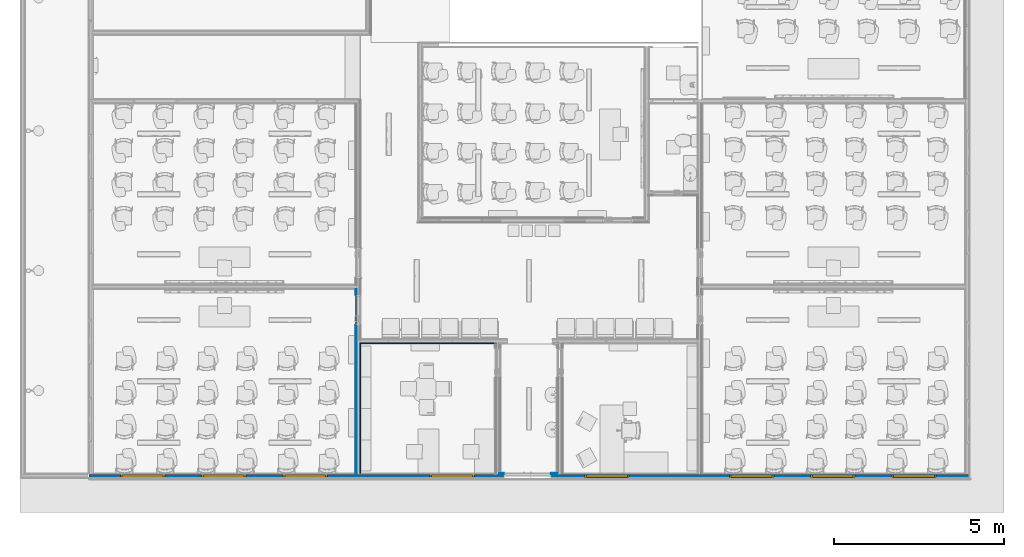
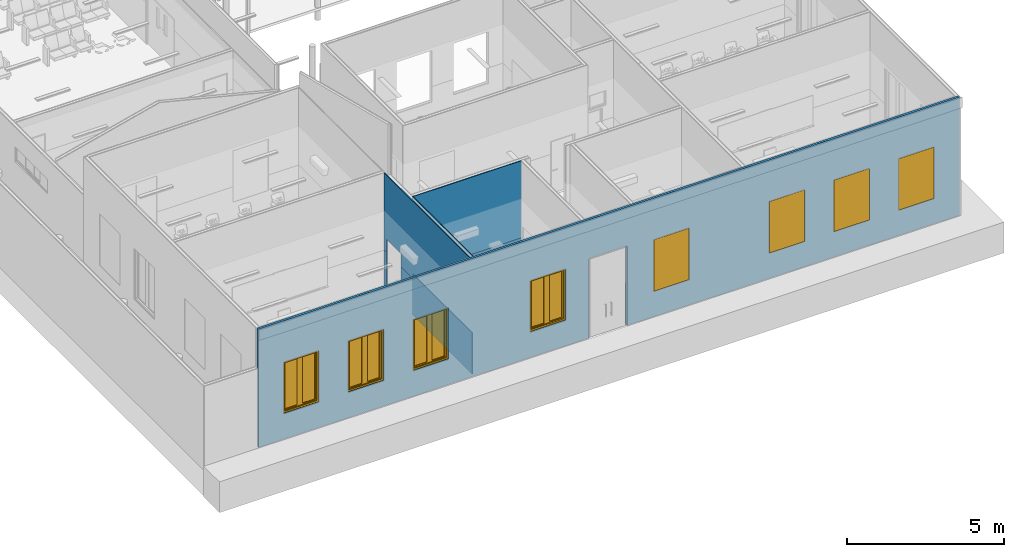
# One storey, part 6 of 155: 8 walls, 8 windows, 26 openings.
"""IFC2X3 building model written with IfcOpenShell, lengths in metres."""

from ifc_helpers import new_model, entity, si_unit, converted_unit, derived_unit, direction, frame, frame_2d, origin, origin_2d_with_axis, place, context, subcontext, project, spatial, polyline, rectangle, outline, extrude, source, transform, mapped, material, layer, layer_set, layer_usage, type_object, type_shapes, element, fill, save


model = new_model("IFC2X3")

# Units and contexts
model_context = context("Model", 3, precision=1e-05, world=origin(), true_north=direction((6.12303176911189e-17, 1.0)))
body_context = subcontext(model_context, "Body", "Model", "MODEL_VIEW")
ifc_project = project(units=[si_unit("LENGTHUNIT", "METRE"), si_unit("AREAUNIT", "SQUARE_METRE"), si_unit("VOLUMEUNIT", "CUBIC_METRE"), converted_unit("PLANEANGLEUNIT", "DEGREE", entity("IfcRatioMeasure", 0.0174532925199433), si_unit("PLANEANGLEUNIT", "RADIAN"), dimensions=[0, 0, 0, 0, 0, 0, 0]), si_unit("MASSUNIT", "GRAM", prefix="KILO"), derived_unit("MASSDENSITYUNIT", [(si_unit("MASSUNIT", "GRAM", prefix="KILO"), 1), (si_unit("LENGTHUNIT", "METRE"), -3)]), si_unit("TIMEUNIT", "SECOND"), si_unit("FREQUENCYUNIT", "HERTZ"), si_unit("THERMODYNAMICTEMPERATUREUNIT", "DEGREE_CELSIUS"), derived_unit("THERMALTRANSMITTANCEUNIT", [(si_unit("MASSUNIT", "GRAM", prefix="KILO"), 1), (si_unit("THERMODYNAMICTEMPERATUREUNIT", "KELVIN"), -1), (si_unit("TIMEUNIT", "SECOND"), -3)]), derived_unit("VOLUMETRICFLOWRATEUNIT", [(si_unit("LENGTHUNIT", "METRE"), 3), (si_unit("TIMEUNIT", "SECOND"), -1)]), si_unit("ELECTRICCURRENTUNIT", "AMPERE"), si_unit("ELECTRICVOLTAGEUNIT", "VOLT"), si_unit("POWERUNIT", "WATT"), si_unit("FORCEUNIT", "NEWTON", prefix="KILO"), si_unit("ILLUMINANCEUNIT", "LUX"), si_unit("LUMINOUSFLUXUNIT", "LUMEN"), si_unit("LUMINOUSINTENSITYUNIT", "CANDELA"), derived_unit("USERDEFINED", [(si_unit("MASSUNIT", "GRAM", prefix="KILO"), -1), (si_unit("LENGTHUNIT", "METRE"), -2), (si_unit("TIMEUNIT", "SECOND"), 3), (si_unit("LUMINOUSFLUXUNIT", "LUMEN"), 1)]), derived_unit("LINEARVELOCITYUNIT", [(si_unit("LENGTHUNIT", "METRE"), 1), (si_unit("TIMEUNIT", "SECOND"), -1)]), si_unit("PRESSUREUNIT", "PASCAL"), derived_unit("USERDEFINED", [(si_unit("LENGTHUNIT", "METRE"), -2), (si_unit("MASSUNIT", "GRAM", prefix="KILO"), 1), (si_unit("TIMEUNIT", "SECOND"), -2)])], contexts=[model_context])

# Site, building, storey
site_placement = place(None, frame((26.9889013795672, -17.5624287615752, 0.0)))
site = spatial("IfcSite", under=ifc_project, at=site_placement, Name="Default", CompositionType="ELEMENT")
building_placement = place(site_placement, origin())
building = spatial("IfcBuilding", under=site, at=building_placement, Name="C. C. L. Monsenhor Antônio Sampaio", CompositionType="ELEMENT")
storey_placement = place(building_placement, frame((0.0, 0.0, 1.19999999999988)))
storey = spatial("IfcBuildingStorey", under=building, at=storey_placement, Name="Nível 1.2", CompositionType="ELEMENT", Elevation=1.19999999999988)

# Wall, openings, windows
ifc_material_1 = material(Name="ALVENARIA")
ifc_layer_1 = layer(ifc_material_1, 0.09)
ifc_layer_set_1 = layer_set([ifc_layer_1], Name="Parede básica:ENucleo parede 15cm")
ifc_layer_usage_1 = layer_usage(ifc_layer_set_1, "AXIS2", "POSITIVE", -0.045)
wall_type_1 = type_object("IfcWallType", Name="Parede básica:ENucleo parede 15cm", PredefinedType="STANDARD", material=ifc_layer_set_1)
wall_1_placement = place(storey_placement, frame((11.6994477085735, -39.3780663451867, 0.0), z_axis=(0.0, 0.0, 1.0), x_axis=(-1.0, 0.0, 0.0)))
wall_1 = element("IfcWallStandardCase", 1, at=wall_1_placement, inside=storey, type_object=wall_type_1, material=ifc_layer_usage_1, Name="Parede básica:ENucleo parede 15cm", ObjectType="Parede básica:ENucleo parede 15cm", context=body_context, shape_type="SweptSolid", body=[
    extrude(rectangle(XDim=25.8099999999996, YDim=0.0899999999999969, at=frame_2d((12.9049999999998, 5.20417042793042e-17), x_axis=(-1.0, 0.0))), origin(), (0.0, 0.0, 1.0), 4.60000000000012),
])
opening_1_placement = place(wall_1_placement, frame((12.2500000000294, -0.0450000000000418, 0.0)))
element("IfcOpeningElement", 2, at=opening_1_placement, cuts=wall_1, Name="Porta pivotante dupla sem revestimento:PORTA DE ENTRADA 3m:1", ObjectType="Opening", context=body_context, shape_type="SweptSolid", body=[
    extrude(rectangle(XDim=3.09999999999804, YDim=1.4, at=frame_2d((1.54999999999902, 0.699999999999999), x_axis=(1.0, 0.0))), frame((0.0, 0.0, 0.0), z_axis=(0.0, 1.0, 0.0), x_axis=(0.0, 0.0, 1.0)), (0.0, 0.0, 1.0), 0.09),
])
opening_2_placement = place(wall_1_placement, frame((0.960000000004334, -0.0450000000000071, 1.0)))
opening_2 = element("IfcOpeningElement", 3, at=opening_2_placement, cuts=wall_1, Name="Janela levantamento:130 x 200cm 2:1", ObjectType="Opening", context=body_context, shape_type="SweptSolid", body=[
    extrude(rectangle(XDim=2.0, YDim=1.30000000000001, at=frame_2d((0.999999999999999, 0.650000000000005), x_axis=(1.0, 0.0))), frame((0.0, 0.0, 0.0), z_axis=(0.0, 1.0, 0.0), x_axis=(0.0, 0.0, 1.0)), (0.0, 0.0, 1.0), 0.09),
])
opening_3_placement = place(wall_1_placement, frame((3.34000000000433, -0.0450000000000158, 1.0)))
opening_3 = element("IfcOpeningElement", 4, at=opening_3_placement, cuts=wall_1, Name="Janela levantamento:130 x 200cm 2:1", ObjectType="Opening", context=body_context, shape_type="SweptSolid", body=[
    extrude(rectangle(XDim=2.0, YDim=1.30000000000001, at=frame_2d((0.999999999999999, 0.650000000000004), x_axis=(1.0, 0.0))), frame((0.0, 0.0, 0.0), z_axis=(0.0, 1.0, 0.0), x_axis=(0.0, 0.0, 1.0)), (0.0, 0.0, 1.0), 0.09),
])
opening_4_placement = place(wall_1_placement, frame((5.72000000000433, -0.0450000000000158, 1.0)))
opening_4 = element("IfcOpeningElement", 5, at=opening_4_placement, cuts=wall_1, Name="Janela levantamento:130 x 200cm 2:1", ObjectType="Opening", context=body_context, shape_type="SweptSolid", body=[
    extrude(rectangle(XDim=2.0, YDim=1.30000000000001, at=frame_2d((0.999999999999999, 0.650000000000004), x_axis=(1.0, 0.0))), frame((0.0, 0.0, 0.0), z_axis=(0.0, 1.0, 0.0), x_axis=(0.0, 0.0, 1.0)), (0.0, 0.0, 1.0), 0.09),
])
opening_5_placement = place(wall_1_placement, frame((9.97000000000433, -0.0450000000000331, 1.0)))
opening_5 = element("IfcOpeningElement", 6, at=opening_5_placement, cuts=wall_1, Name="Janela levantamento:130 x 200cm 2:1", ObjectType="Opening", context=body_context, shape_type="SweptSolid", body=[
    extrude(rectangle(XDim=2.0, YDim=1.30000000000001, at=frame_2d((0.999999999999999, 0.650000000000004), x_axis=(1.0, 0.0))), frame((0.0, 0.0, 0.0), z_axis=(0.0, 1.0, 0.0), x_axis=(0.0, 0.0, 1.0)), (0.0, 0.0, 1.0), 0.09),
])
opening_6_placement = place(wall_1_placement, frame((15.8100000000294, 0.0449999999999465, 1.0)))
opening_6 = element("IfcOpeningElement", 7, at=opening_6_placement, cuts=wall_1, Name="Janela levantamento:130 x 200cm 2:1", ObjectType="Opening", context=body_context, shape_type="SweptSolid", body=[
    extrude(rectangle(XDim=2.0, YDim=1.30000000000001, at=frame_2d((0.999999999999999, 0.650000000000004), x_axis=(1.0, 0.0))), frame((0.0, 0.0, 0.0), z_axis=(0.0, -1.0, 0.0), x_axis=(0.0, 0.0, 1.0)), (0.0, 0.0, 1.0), 0.09),
])
opening_7_placement = place(wall_1_placement, frame((20.1199999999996, 0.0449999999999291, 1.0)))
opening_7 = element("IfcOpeningElement", 8, at=opening_7_placement, cuts=wall_1, Name="Janela levantamento:130 x 200cm 2:1", ObjectType="Opening", context=body_context, shape_type="SweptSolid", body=[
    extrude(rectangle(XDim=2.0, YDim=1.30000000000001, at=frame_2d((0.999999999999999, 0.650000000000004), x_axis=(1.0, 0.0))), frame((0.0, 0.0, 0.0), z_axis=(0.0, -1.0, 0.0), x_axis=(0.0, 0.0, 1.0)), (0.0, 0.0, 1.0), 0.09),
])
opening_8_placement = place(wall_1_placement, frame((22.5099999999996, 0.0449999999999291, 1.0)))
opening_8 = element("IfcOpeningElement", 9, at=opening_8_placement, cuts=wall_1, Name="Janela levantamento:130 x 200cm 2:1", ObjectType="Opening", context=body_context, shape_type="SweptSolid", body=[
    extrude(rectangle(XDim=2.0, YDim=1.30000000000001, at=frame_2d((0.999999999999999, 0.650000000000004), x_axis=(1.0, 0.0))), frame((0.0, 0.0, 0.0), z_axis=(0.0, -1.0, 0.0), x_axis=(0.0, 0.0, 1.0)), (0.0, 0.0, 1.0), 0.09),
])
opening_9_placement = place(wall_1_placement, frame((24.8899999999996, 0.0449999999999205, 1.0)))
opening_9 = element("IfcOpeningElement", 10, at=opening_9_placement, cuts=wall_1, Name="Janela levantamento:130 x 200cm 2:1", ObjectType="Opening", context=body_context, shape_type="SweptSolid", body=[
    extrude(rectangle(XDim=2.0, YDim=1.30000000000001, at=frame_2d((0.999999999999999, 0.650000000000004), x_axis=(1.0, 0.0))), frame((0.0, 0.0, 0.0), z_axis=(0.0, -1.0, 0.0), x_axis=(0.0, 0.0, 1.0)), (0.0, 0.0, 1.0), 0.09),
])
ifc_material_2 = material(Name="Pintura Azul")
window_style_1 = type_object("IfcWindowStyle", Name="130 x 200cm 2", ConstructionType="NOTDEFINED", OperationType="NOTDEFINED", ParameterTakesPrecedence=False, Sizeable=False, material=ifc_material_2)
shared_shape_1 = source(origin(), body_context, "Body", "SweptSolid", [
    extrude(rectangle(XDim=1.3, YDim=0.0209999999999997, at=frame_2d((0.0, 4.33680868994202e-18), x_axis=(1.0, 0.0))), frame((0.650000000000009, 0.0795000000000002, 0.0)), (0.0, 0.0, 1.0), 0.0299999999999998),
    extrude(outline(polyline([(-0.325000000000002, -1.0), (0.325000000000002, -1.0), (0.325000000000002, 1.0), (-0.325000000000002, 1.0), (-0.325000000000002, -1.0)]), holes=[polyline([(0.225000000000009, -0.899999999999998), (-0.225000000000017, -0.899999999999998), (-0.225000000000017, 0.900000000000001), (0.225000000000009, 0.900000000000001), (0.225000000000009, -0.899999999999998)])]), frame((0.325000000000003, 0.0690000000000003, 1.0), z_axis=(0.0, 1.0, 0.0), x_axis=(1.0, 0.0, 0.0)), (0.0, 0.0, 1.0), 0.04),
    extrude(outline(polyline([(-0.650000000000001, -1.0), (0.650000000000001, -1.0), (0.650000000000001, 1.0), (-0.650000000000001, 1.0), (-0.650000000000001, -1.0)]), holes=[polyline([(-0.599999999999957, -0.949999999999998), (-0.599999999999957, 0.94), (0.600000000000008, 0.94), (0.600000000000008, -0.949999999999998), (-0.599999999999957, -0.949999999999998)])]), frame((0.650000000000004, 0.019, 1.0), z_axis=(0.0, 1.0, 0.0), x_axis=(1.0, 0.0, 0.0)), (0.0, 0.0, 1.0), 0.05),
    extrude(rectangle(XDim=0.0205880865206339, YDim=0.450000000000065, at=origin_2d_with_axis()), frame((0.324999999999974, 0.0987059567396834, 0.0999999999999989), z_axis=(0.0, 0.0, 1.0), x_axis=(0.0, 1.0, 0.0)), (0.0, 0.0, 1.0), 1.8),
    extrude(rectangle(XDim=0.0205880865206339, YDim=0.449999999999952, at=frame_2d((0.0, 4.16333634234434e-17), x_axis=(1.0, 0.0))), frame((0.977826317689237, 0.0987059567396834, 0.100000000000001), z_axis=(0.0, 0.0, 1.0), x_axis=(0.0, 1.0, 0.0)), (0.0, 0.0, 1.0), 1.8),
    extrude(outline(polyline([(-1.0, -0.325000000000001), (1.0, -0.325000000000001), (1.0, 0.325000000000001), (-1.0, 0.325000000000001), (-1.0, -0.325000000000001)]), holes=[polyline([(-0.899999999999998, 0.224999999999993), (0.900000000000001, 0.224999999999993), (0.900000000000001, -0.225000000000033), (-0.899999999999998, -0.225000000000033), (-0.899999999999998, 0.224999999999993)])]), frame((0.975000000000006, 0.0690000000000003, 1.0), z_axis=(0.0, 1.0, 0.0), x_axis=(0.0, 0.0, -1.0)), (0.0, 0.0, 1.0), 0.04),
])
type_shapes(window_style_1, [shared_shape_1])
window_1_placement = place(opening_9_placement, frame((0.0, 0.0, 0.0), z_axis=(0.0, 0.0, 1.0), x_axis=(-1.0, 0.0, 0.0)))
window_1 = element("IfcWindow", 11, at=window_1_placement, inside=storey, type_object=window_style_1, material=ifc_material_2, Name="Janela levantamento:130 x 200cm 2", ObjectType="130 x 200cm 2", OverallHeight=2.0, OverallWidth=1.30000000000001, context=body_context, shape_type="MappedRepresentation", body=[
    mapped(shared_shape_1, transform((0.0, 0.0, 0.0), scale=1.0)),
])
fill(opening_9, window_1)
window_2_placement = place(opening_8_placement, frame((0.0, 0.0, 0.0), z_axis=(0.0, 0.0, 1.0), x_axis=(-1.0, 0.0, 0.0)))
window_2 = element("IfcWindow", 12, at=window_2_placement, inside=storey, type_object=window_style_1, material=ifc_material_2, Name="Janela levantamento:130 x 200cm 2", ObjectType="130 x 200cm 2", OverallHeight=2.0, OverallWidth=1.30000000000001, context=body_context, shape_type="MappedRepresentation", body=[
    mapped(shared_shape_1, transform((0.0, 0.0, 0.0), scale=1.0)),
])
fill(opening_8, window_2)
window_3_placement = place(opening_7_placement, frame((0.0, 0.0, 0.0), z_axis=(0.0, 0.0, 1.0), x_axis=(-1.0, 0.0, 0.0)))
window_3 = element("IfcWindow", 13, at=window_3_placement, inside=storey, type_object=window_style_1, material=ifc_material_2, Name="Janela levantamento:130 x 200cm 2", ObjectType="130 x 200cm 2", OverallHeight=2.0, OverallWidth=1.30000000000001, context=body_context, shape_type="MappedRepresentation", body=[
    mapped(shared_shape_1, transform((0.0, 0.0, 0.0), scale=1.0)),
])
fill(opening_7, window_3)
window_4_placement = place(opening_5_placement, origin())
window_4 = element("IfcWindow", 14, at=window_4_placement, inside=storey, type_object=window_style_1, material=ifc_material_2, Name="Janela levantamento:130 x 200cm 2", ObjectType="130 x 200cm 2", OverallHeight=2.0, OverallWidth=1.30000000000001, context=body_context, shape_type="MappedRepresentation", body=[
    mapped(shared_shape_1, transform((0.0, 0.0, 0.0), scale=1.0)),
])
fill(opening_5, window_4)
window_5_placement = place(opening_4_placement, origin())
window_5 = element("IfcWindow", 15, at=window_5_placement, inside=storey, type_object=window_style_1, material=ifc_material_2, Name="Janela levantamento:130 x 200cm 2", ObjectType="130 x 200cm 2", OverallHeight=2.0, OverallWidth=1.30000000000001, context=body_context, shape_type="MappedRepresentation", body=[
    mapped(shared_shape_1, transform((0.0, 0.0, 0.0), scale=1.0)),
])
fill(opening_4, window_5)
window_6_placement = place(opening_3_placement, origin())
window_6 = element("IfcWindow", 16, at=window_6_placement, inside=storey, type_object=window_style_1, material=ifc_material_2, Name="Janela levantamento:130 x 200cm 2", ObjectType="130 x 200cm 2", OverallHeight=2.0, OverallWidth=1.30000000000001, context=body_context, shape_type="MappedRepresentation", body=[
    mapped(shared_shape_1, transform((0.0, 0.0, 0.0), scale=1.0)),
])
fill(opening_3, window_6)
window_7_placement = place(opening_2_placement, origin())
window_7 = element("IfcWindow", 17, at=window_7_placement, inside=storey, type_object=window_style_1, material=ifc_material_2, Name="Janela levantamento:130 x 200cm 2", ObjectType="130 x 200cm 2", OverallHeight=2.0, OverallWidth=1.30000000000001, context=body_context, shape_type="MappedRepresentation", body=[
    mapped(shared_shape_1, transform((0.0, 0.0, 0.0), scale=1.0)),
])
fill(opening_2, window_7)
window_style_2 = type_object("IfcWindowStyle", Name="130 x 200cm 2", ConstructionType="NOTDEFINED", OperationType="NOTDEFINED", ParameterTakesPrecedence=False, Sizeable=False, material=ifc_material_2)
shared_shape_2 = source(origin(), body_context, "Body", "SweptSolid", [
    extrude(rectangle(XDim=0.0209999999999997, YDim=1.3, at=origin_2d_with_axis()), frame((0.732281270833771, 0.0795000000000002, 0.0), z_axis=(0.0, 0.0, 1.0), x_axis=(0.0, 1.0, 0.0)), (0.0, 0.0, 1.0), 0.0299999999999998),
    extrude(outline(polyline([(-0.325000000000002, -1.0), (0.325000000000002, -1.0), (0.325000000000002, 1.0), (-0.325000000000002, 1.0), (-0.325000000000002, -1.0)]), holes=[polyline([(0.225000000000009, -0.899999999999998), (-0.225000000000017, -0.899999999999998), (-0.225000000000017, 0.900000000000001), (0.225000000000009, 0.900000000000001), (0.225000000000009, -0.899999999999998)])]), frame((1.05728127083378, 0.109, 1.0), z_axis=(0.0, -1.0, 0.0), x_axis=(-1.0, 0.0, 0.0)), (0.0, 0.0, 1.0), 0.04),
    extrude(outline(polyline([(-0.650000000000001, -1.0), (0.650000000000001, -1.0), (0.650000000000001, 1.0), (-0.650000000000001, 1.0), (-0.650000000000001, -1.0)]), holes=[polyline([(-0.599999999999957, -0.949999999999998), (-0.599999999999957, 0.94), (0.600000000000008, 0.94), (0.600000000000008, -0.949999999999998), (-0.599999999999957, -0.949999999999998)])]), frame((0.732281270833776, 0.069, 1.0), z_axis=(0.0, -1.0, 0.0), x_axis=(-1.0, 0.0, 0.0)), (0.0, 0.0, 1.0), 0.05),
    extrude(rectangle(XDim=0.450000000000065, YDim=0.0205880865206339, at=origin_2d_with_axis()), frame((1.05728127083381, 0.0987059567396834, 0.0999999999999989)), (0.0, 0.0, 1.0), 1.8),
    extrude(rectangle(XDim=0.449999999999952, YDim=0.0205880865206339, at=origin_2d_with_axis()), frame((0.404454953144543, 0.0987059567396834, 0.100000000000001)), (0.0, 0.0, 1.0), 1.8),
    extrude(outline(polyline([(-1.0, -0.325000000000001), (1.0, -0.325000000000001), (1.0, 0.325000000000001), (-1.0, 0.325000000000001), (-1.0, -0.325000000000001)]), holes=[polyline([(-0.899999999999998, 0.224999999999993), (0.900000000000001, 0.224999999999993), (0.900000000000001, -0.225000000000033), (-0.899999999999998, -0.225000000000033), (-0.899999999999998, 0.224999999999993)])]), frame((0.407281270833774, 0.109, 1.0), z_axis=(0.0, -1.0, 0.0), x_axis=(0.0, 0.0, -1.0)), (0.0, 0.0, 1.0), 0.04),
])
type_shapes(window_style_2, [shared_shape_2])
window_8_placement = place(opening_6_placement, frame((0.0822812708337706, 0.0, 0.0), z_axis=(0.0, 0.0, 1.0), x_axis=(-1.0, 0.0, 0.0)))
window_8 = element("IfcWindow", 18, at=window_8_placement, inside=storey, type_object=window_style_2, material=ifc_material_2, Name="Janela levantamento:130 x 200cm 2", ObjectType="130 x 200cm 2", OverallHeight=2.0, OverallWidth=1.30000000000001, context=body_context, shape_type="MappedRepresentation", body=[
    mapped(shared_shape_2, transform((0.0, 0.0, 0.0), scale=1.0)),
])
fill(opening_6, window_8)

# Wall, openings
ifc_material_3 = material(Name=".CERÂMICA 10x10 BRANCA")
ifc_layer_2 = layer(ifc_material_3, 0.0035)
ifc_material_4 = material(Name="Argamassa Colante")
ifc_layer_3 = layer(ifc_material_4, 0.02)
ifc_material_5 = material(Name="4")
ifc_layer_4 = layer(ifc_material_5, 0.0015)
ifc_material_6 = material(Name="3")
ifc_layer_5 = layer(ifc_material_6, 0.005)
ifc_layer_set_2 = layer_set([ifc_layer_2, ifc_layer_3, ifc_layer_4, ifc_layer_5], Name="Parede básica:ECeramica branca 10x10cm")
ifc_layer_usage_2 = layer_usage(ifc_layer_set_2, "AXIS2", "POSITIVE", -0.015)
wall_type_2 = type_object("IfcWallType", Name="Parede básica:ECeramica branca 10x10cm", PredefinedType="STANDARD", material=ifc_layer_set_2)
wall_2_placement = place(storey_placement, frame((-0.370552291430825, -39.3180663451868, 0.0), z_axis=(0.0, 0.0, 1.0), x_axis=(-1.0, 0.0, 0.0)))
wall_2 = element("IfcWallStandardCase", 19, at=wall_2_placement, inside=storey, type_object=wall_type_2, material=ifc_layer_usage_2, Name="Parede básica:ECeramica branca 10x10cm", ObjectType="Parede básica:ECeramica branca 10x10cm", context=body_context, shape_type="SweptSolid", body=[
    extrude(rectangle(XDim=1.70000000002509, YDim=0.0299999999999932, at=frame_2d((0.850000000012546, 0.0), x_axis=(-1.0, 0.0))), origin(), (0.0, 0.0, 1.0), 1.6),
])
opening_10_placement = place(wall_2_placement, origin())
element("IfcOpeningElement", 20, at=opening_10_placement, cuts=wall_2, Name="Parede básica:ECeramica branca 10x10cm", ObjectType="Opening", context=body_context, shape_type="SweptSolid", body=[
    extrude(rectangle(XDim=3.09999999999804, YDim=1.4, at=frame_2d((0.0, -3.33066907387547e-16), x_axis=(0.0, 1.0))), frame((0.880000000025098, -1.50900000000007, 1.54999999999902), z_axis=(0.0, 1.0, 0.0), x_axis=(-1.0, 0.0, 0.0)), (0.0, 0.0, 1.0), 3.048),
])
opening_11_placement = place(wall_2_placement, origin())
element("IfcOpeningElement", 21, at=opening_11_placement, cuts=wall_2, Name="Parede básica:ECeramica branca 10x10cm", ObjectType="Opening", context=body_context, shape_type="SweptSolid", body=[
    extrude(rectangle(XDim=2.0, YDim=1.30000000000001, at=frame_2d((0.0, -3.88578058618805e-16), x_axis=(0.0, 1.0))), frame((12.1699999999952, -1.41900000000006, 2.0), z_axis=(0.0, 1.0, 0.0), x_axis=(-1.0, 0.0, 0.0)), (0.0, 0.0, 1.0), 3.04799999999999),
])
opening_12_placement = place(wall_2_placement, origin())
element("IfcOpeningElement", 22, at=opening_12_placement, cuts=wall_2, Name="Parede básica:ECeramica branca 10x10cm", ObjectType="Opening", context=body_context, shape_type="SweptSolid", body=[
    extrude(rectangle(XDim=2.0, YDim=1.30000000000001, at=frame_2d((-4.9960036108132e-16, -3.88578058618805e-16), x_axis=(0.0, 1.0))), frame((9.78999999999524, -1.41900000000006, 2.0), z_axis=(0.0, 1.0, 0.0), x_axis=(-1.0, 0.0, 0.0)), (0.0, 0.0, 1.0), 3.048),
])
opening_13_placement = place(wall_2_placement, origin())
element("IfcOpeningElement", 23, at=opening_13_placement, cuts=wall_2, Name="Parede básica:ECeramica branca 10x10cm", ObjectType="Opening", context=body_context, shape_type="SweptSolid", body=[
    extrude(rectangle(XDim=2.0, YDim=1.30000000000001, at=frame_2d((0.0, -3.88578058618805e-16), x_axis=(0.0, 1.0))), frame((7.39999999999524, -1.41900000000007, 2.0), z_axis=(0.0, 1.0, 0.0), x_axis=(-1.0, 0.0, 0.0)), (0.0, 0.0, 1.0), 3.048),
])
opening_14_placement = place(wall_2_placement, origin())
element("IfcOpeningElement", 24, at=opening_14_placement, cuts=wall_2, Name="Parede básica:ECeramica branca 10x10cm", ObjectType="Opening", context=body_context, shape_type="SweptSolid", body=[
    extrude(rectangle(XDim=2.0, YDim=1.30000000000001, at=frame_2d((1.66533453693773e-16, 0.0), x_axis=(1.0, 0.0))), frame((3.09000000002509, -1.41900000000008, 2.0), z_axis=(0.0, 1.0, 0.0), x_axis=(0.0, 0.0, 1.0)), (0.0, 0.0, 1.0), 3.048),
])
opening_15_placement = place(wall_2_placement, origin())
element("IfcOpeningElement", 25, at=opening_15_placement, cuts=wall_2, Name="Parede básica:ECeramica branca 10x10cm", ObjectType="Opening", context=body_context, shape_type="SweptSolid", body=[
    extrude(rectangle(XDim=2.0, YDim=1.30000000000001, at=frame_2d((1.66533453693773e-16, -1.11022302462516e-16), x_axis=(1.0, 0.0))), frame((-1.45, -1.50900000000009, 2.0), z_axis=(0.0, 1.0, 0.0), x_axis=(0.0, 0.0, 1.0)), (0.0, 0.0, 1.0), 3.048),
])
opening_16_placement = place(wall_2_placement, origin())
element("IfcOpeningElement", 26, at=opening_16_placement, cuts=wall_2, Name="Parede básica:ECeramica branca 10x10cm", ObjectType="Opening", context=body_context, shape_type="SweptSolid", body=[
    extrude(rectangle(XDim=2.0, YDim=1.30000000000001, at=frame_2d((1.66533453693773e-16, -2.22044604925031e-16), x_axis=(1.0, 0.0))), frame((-5.69999999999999, -1.50900000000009, 2.0), z_axis=(0.0, 1.0, 0.0), x_axis=(0.0, 0.0, 1.0)), (0.0, 0.0, 1.0), 3.048),
])
opening_17_placement = place(wall_2_placement, origin())
element("IfcOpeningElement", 27, at=opening_17_placement, cuts=wall_2, Name="Parede básica:ECeramica branca 10x10cm", ObjectType="Opening", context=body_context, shape_type="SweptSolid", body=[
    extrude(rectangle(XDim=2.0, YDim=1.30000000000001, at=frame_2d((1.66533453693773e-16, 0.0), x_axis=(1.0, 0.0))), frame((-8.07999999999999, -1.5090000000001, 2.0), z_axis=(0.0, 1.0, 0.0), x_axis=(0.0, 0.0, 1.0)), (0.0, 0.0, 1.0), 3.048),
])
opening_18_placement = place(wall_2_placement, origin())
element("IfcOpeningElement", 28, at=opening_18_placement, cuts=wall_2, Name="Parede básica:ECeramica branca 10x10cm", ObjectType="Opening", context=body_context, shape_type="SweptSolid", body=[
    extrude(rectangle(XDim=2.0, YDim=1.30000000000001, at=frame_2d((1.66533453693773e-16, 0.0), x_axis=(1.0, 0.0))), frame((-10.46, -1.5090000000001, 2.0), z_axis=(0.0, 1.0, 0.0), x_axis=(0.0, 0.0, 1.0)), (0.0, 0.0, 1.0), 3.048),
])

# Wall
ifc_layer_usage_3 = layer_usage(ifc_layer_set_2, "AXIS2", "POSITIVE", -0.015)
wall_3_placement = place(storey_placement, frame((-6.17055229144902, -35.4880663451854, 0.0)))
element("IfcWallStandardCase", 29, at=wall_3_placement, inside=storey, type_object=wall_type_2, material=ifc_layer_usage_3, Name="Parede básica:ECeramica branca 10x10cm", ObjectType="Parede básica:ECeramica branca 10x10cm", context=body_context, shape_type="SweptSolid", body=[
    extrude(rectangle(XDim=4.00999999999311, YDim=0.0300000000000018, at=frame_2d((2.00499999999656, 0.0), x_axis=(-1.0, 0.0))), origin(), (0.0, 0.0, 1.0), 1.6),
])

# Wall, openings
ifc_layer_usage_4 = layer_usage(ifc_layer_set_2, "AXIS2", "POSITIVE", -0.015)
wall_4_placement = place(storey_placement, frame((-6.15555229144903, -39.3030663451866, 0.0), z_axis=(0.0, 0.0, 1.0), x_axis=(0.0, 1.0, 0.0)))
wall_4 = element("IfcWallStandardCase", 30, at=wall_4_placement, inside=storey, type_object=wall_type_2, material=ifc_layer_usage_4, Name="Parede básica:ECeramica branca 10x10cm", ObjectType="Parede básica:ECeramica branca 10x10cm", context=body_context, shape_type="SweptSolid", body=[
    extrude(rectangle(XDim=3.8000000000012, YDim=0.0299999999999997, at=frame_2d((1.9000000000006, -2.51534904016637e-17), x_axis=(-1.0, 0.0))), origin(), (0.0, 0.0, 1.0), 1.6),
])
opening_19_placement = place(wall_4_placement, origin())
element("IfcOpeningElement", 31, at=opening_19_placement, cuts=wall_4, Name="Parede básica:ECeramica branca 10x10cm", ObjectType="Opening", context=body_context, shape_type="SweptSolid", body=[
    extrude(rectangle(XDim=2.09999999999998, YDim=0.899999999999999, at=frame_2d((-2.16493489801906e-15, 0.0), x_axis=(0.0, 1.0))), frame((4.7900000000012, -1.419, 1.04999999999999), z_axis=(0.0, 1.0, 0.0), x_axis=(-1.0, 0.0, 0.0)), (0.0, 0.0, 1.0), 3.048),
])
opening_20_placement = place(wall_4_placement, origin())
element("IfcOpeningElement", 32, at=opening_20_placement, cuts=wall_4, Name="Parede básica:ECeramica branca 10x10cm", ObjectType="Opening", context=body_context, shape_type="SweptSolid", body=[
    extrude(rectangle(XDim=2.09999999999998, YDim=0.899999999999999, at=frame_2d((-3.33066907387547e-16, 2.16493489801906e-15), x_axis=(1.0, 0.0))), frame((6.1699999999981, -1.419, 1.04999999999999), z_axis=(0.0, 1.0, 0.0), x_axis=(0.0, 0.0, 1.0)), (0.0, 0.0, 1.0), 3.048),
])

ifc_layer_usage_5 = layer_usage(ifc_layer_set_2, "AXIS2", "POSITIVE", -0.015)
wall_5_placement = place(storey_placement, frame((-6.27555229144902, -33.9030663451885, 0.0), z_axis=(0.0, 0.0, 1.0), x_axis=(0.0, -1.0, 0.0)))
wall_5 = element("IfcWallStandardCase", 33, at=wall_5_placement, inside=storey, type_object=wall_type_2, material=ifc_layer_usage_5, Name="Parede básica:ECeramica branca 10x10cm", ObjectType="Parede básica:ECeramica branca 10x10cm", context=body_context, shape_type="SweptSolid", body=[
    extrude(rectangle(XDim=5.42999999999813, YDim=0.0299999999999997, at=frame_2d((2.71499999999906, 0.0), x_axis=(-1.0, 0.0))), origin(), (0.0, 0.0, 1.0), 1.6),
])
opening_21_placement = place(wall_5_placement, origin())
element("IfcOpeningElement", 34, at=opening_21_placement, cuts=wall_5, Name="Parede básica:ECeramica branca 10x10cm", ObjectType="Opening", context=body_context, shape_type="SweptSolid", body=[
    extrude(rectangle(XDim=2.09999999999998, YDim=0.899999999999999, at=frame_2d((-3.33066907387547e-16, 2.16493489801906e-15), x_axis=(1.0, 0.0))), frame((0.609999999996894, -1.509, 1.04999999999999), z_axis=(0.0, 1.0, 0.0), x_axis=(0.0, 0.0, 1.0)), (0.0, 0.0, 1.0), 3.048),
])
opening_22_placement = place(wall_5_placement, origin())
element("IfcOpeningElement", 35, at=opening_22_placement, cuts=wall_5, Name="Parede básica:ECeramica branca 10x10cm", ObjectType="Opening", context=body_context, shape_type="SweptSolid", body=[
    extrude(rectangle(XDim=2.09999999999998, YDim=0.900000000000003, at=frame_2d((0.0, 0.0), x_axis=(0.0, 1.0))), frame((-0.769999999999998, -1.509, 1.04999999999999), z_axis=(0.0, 1.0, 0.0), x_axis=(-1.0, 0.0, 0.0)), (0.0, 0.0, 1.0), 3.048),
])

# Wall
ifc_material_7 = material(Name="Acabamento Branco")
ifc_layer_6 = layer(ifc_material_7, 0.0035)
ifc_material_8 = material(Name="Massa corrida")
ifc_layer_7 = layer(ifc_material_8, 0.02)
ifc_layer_8 = layer(ifc_material_5, 0.0015)
ifc_layer_9 = layer(ifc_material_6, 0.005)
ifc_layer_set_3 = layer_set([ifc_layer_6, ifc_layer_7, ifc_layer_8, ifc_layer_9], Name="Parede básica:EPintura Branca")
ifc_layer_usage_6 = layer_usage(ifc_layer_set_3, "AXIS2", "POSITIVE", -0.015)
wall_type_3 = type_object("IfcWallType", Name="Parede básica:EPintura Branca", PredefinedType="STANDARD", material=ifc_layer_set_3)
wall_6_placement = place(storey_placement, frame((-6.17055229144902, -35.4880663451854, 1.6)))
element("IfcWallStandardCase", 36, at=wall_6_placement, inside=storey, type_object=wall_type_3, material=ifc_layer_usage_6, Name="Parede básica:EPintura Branca", ObjectType="Parede básica:EPintura Branca", context=body_context, shape_type="SweptSolid", body=[
    extrude(rectangle(XDim=4.00999999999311, YDim=0.0300000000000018, at=frame_2d((2.00499999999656, 0.0), x_axis=(-1.0, 0.0))), origin(), (0.0, 0.0, 1.0), 3.00000000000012),
])

# Wall, openings
ifc_layer_usage_7 = layer_usage(ifc_layer_set_3, "AXIS2", "POSITIVE", -0.015)
wall_7_placement = place(storey_placement, frame((-6.15555229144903, -39.3030663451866, 1.6), z_axis=(0.0, 0.0, 1.0), x_axis=(0.0, 1.0, 0.0)))
wall_7 = element("IfcWallStandardCase", 37, at=wall_7_placement, inside=storey, type_object=wall_type_3, material=ifc_layer_usage_7, Name="Parede básica:EPintura Branca", ObjectType="Parede básica:EPintura Branca", context=body_context, shape_type="SweptSolid", body=[
    extrude(rectangle(XDim=3.8000000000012, YDim=0.0299999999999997, at=frame_2d((1.9000000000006, -2.51534904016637e-17), x_axis=(-1.0, 0.0))), origin(), (0.0, 0.0, 1.0), 3.00000000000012),
])
opening_23_placement = place(wall_7_placement, origin())
element("IfcOpeningElement", 38, at=opening_23_placement, cuts=wall_7, Name="Parede básica:EPintura Branca", ObjectType="Opening", context=body_context, shape_type="SweptSolid", body=[
    extrude(rectangle(XDim=2.09999999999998, YDim=0.899999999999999, at=frame_2d((-2.16493489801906e-15, 0.0), x_axis=(0.0, 1.0))), frame((4.7900000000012, -1.419, -0.550000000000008), z_axis=(0.0, 1.0, 0.0), x_axis=(-1.0, 0.0, 0.0)), (0.0, 0.0, 1.0), 3.048),
])
opening_24_placement = place(wall_7_placement, origin())
element("IfcOpeningElement", 39, at=opening_24_placement, cuts=wall_7, Name="Parede básica:EPintura Branca", ObjectType="Opening", context=body_context, shape_type="SweptSolid", body=[
    extrude(rectangle(XDim=2.09999999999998, YDim=0.899999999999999, at=frame_2d((-3.33066907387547e-16, 2.16493489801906e-15), x_axis=(1.0, 0.0))), frame((6.1699999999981, -1.419, -0.550000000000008), z_axis=(0.0, 1.0, 0.0), x_axis=(0.0, 0.0, 1.0)), (0.0, 0.0, 1.0), 3.048),
])

ifc_layer_usage_8 = layer_usage(ifc_layer_set_3, "AXIS2", "POSITIVE", -0.015)
wall_8_placement = place(storey_placement, frame((-6.27555229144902, -33.9030663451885, 1.6), z_axis=(0.0, 0.0, 1.0), x_axis=(0.0, -1.0, 0.0)))
wall_8 = element("IfcWallStandardCase", 40, at=wall_8_placement, inside=storey, type_object=wall_type_3, material=ifc_layer_usage_8, Name="Parede básica:EPintura Branca", ObjectType="Parede básica:EPintura Branca", context=body_context, shape_type="SweptSolid", body=[
    extrude(rectangle(XDim=5.42999999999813, YDim=0.0299999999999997, at=frame_2d((2.71499999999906, 0.0), x_axis=(-1.0, 0.0))), origin(), (0.0, 0.0, 1.0), 3.00000000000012),
])
opening_25_placement = place(wall_8_placement, origin())
element("IfcOpeningElement", 41, at=opening_25_placement, cuts=wall_8, Name="Parede básica:EPintura Branca", ObjectType="Opening", context=body_context, shape_type="SweptSolid", body=[
    extrude(rectangle(XDim=2.09999999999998, YDim=0.899999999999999, at=frame_2d((-3.33066907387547e-16, 2.16493489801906e-15), x_axis=(1.0, 0.0))), frame((0.609999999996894, -1.509, -0.550000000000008), z_axis=(0.0, 1.0, 0.0), x_axis=(0.0, 0.0, 1.0)), (0.0, 0.0, 1.0), 3.048),
])
opening_26_placement = place(wall_8_placement, origin())
element("IfcOpeningElement", 42, at=opening_26_placement, cuts=wall_8, Name="Parede básica:EPintura Branca", ObjectType="Opening", context=body_context, shape_type="SweptSolid", body=[
    extrude(rectangle(XDim=2.09999999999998, YDim=0.900000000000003, at=frame_2d((0.0, 0.0), x_axis=(0.0, 1.0))), frame((-0.769999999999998, -1.509, -0.550000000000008), z_axis=(0.0, 1.0, 0.0), x_axis=(-1.0, 0.0, 0.0)), (0.0, 0.0, 1.0), 3.048),
])

save(model, "model.ifc")
